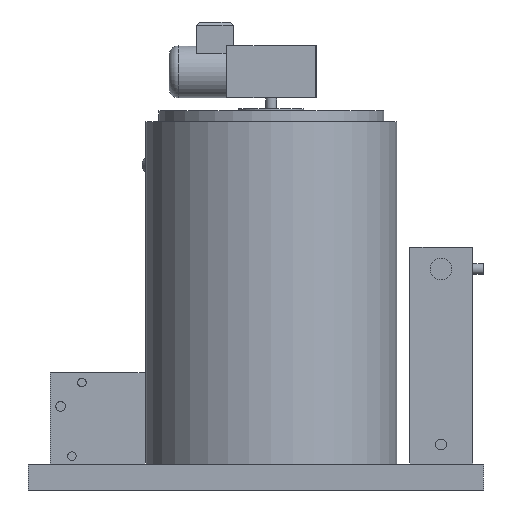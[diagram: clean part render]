
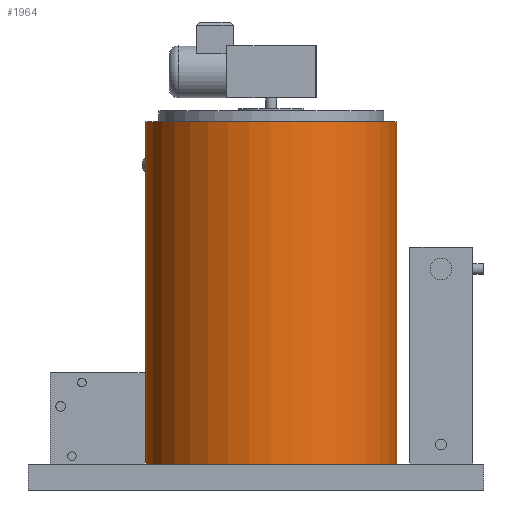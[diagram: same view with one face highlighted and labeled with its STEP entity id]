
A CAD part, front view. The second image highlights one B-rep face of the part: STEP entity #1964.
In plain terms, the highlighted cylindrical face has radius 290 mm (diameter 580 mm), a full revolution.
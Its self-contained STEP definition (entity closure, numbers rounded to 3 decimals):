
#21=B_SPLINE_CURVE_WITH_KNOTS('',3,(#2699,#2700,#2701,#2702,#2703,#2704,
#2705,#2706,#2707,#2708,#2709,#2710,#2711,#2712,#2713,#2714,#2715,#2716,
#2717,#2718,#2719,#2720,#2721,#2722,#2723,#2724,#2725,#2726,#2727,#2728,
#2729,#2730,#2731,#2732,#2733,#2734,#2735,#2736,#2737,#2738,#2739,#2740,
#2741,#2742,#2743),.UNSPECIFIED.,.T.,.F.,(1,1,1,1,1,1,1,1,1,1,1,1,1,1,1,
1,1,1,1,1,1,1,1,1,1,1,1,1,1,1,1,1,1,1,1,1,1,1,1,1,1,1,1,1,1,1,1,1,1),(-0.012,
-0.01,-0.005,0.,0.005,
0.01,0.015,0.02,0.025,
0.03,0.032,0.035,0.04,
0.045,0.05,0.052,0.054,
0.059,0.062,0.064,0.067,
0.069,0.074,0.079,0.084,
0.087,0.089,0.092,0.094,
0.099,0.104,0.109,0.111,
0.114,0.116,0.119,0.124,
0.126,0.129,0.134,0.139,
0.144,0.146,0.149,0.154,
0.158,0.163,0.168,0.173),
 .UNSPECIFIED.);
#28=CYLINDRICAL_SURFACE('',#2082,290.);
#349=ORIENTED_EDGE('',*,*,#657,.F.);
#350=ORIENTED_EDGE('',*,*,#658,.T.);
#351=ORIENTED_EDGE('',*,*,#616,.T.);
#616=EDGE_CURVE('',#781,#781,#898,.T.);
#657=EDGE_CURVE('',#818,#818,#21,.T.);
#658=EDGE_CURVE('',#819,#819,#917,.T.);
#781=VERTEX_POINT('',#2609);
#818=VERTEX_POINT('',#2744);
#819=VERTEX_POINT('',#2746);
#898=CIRCLE('',#2051,290.);
#917=CIRCLE('',#2083,290.);
#986=EDGE_LOOP('',(#349));
#987=EDGE_LOOP('',(#350));
#988=EDGE_LOOP('',(#351));
#1140=FACE_BOUND('',#986,.T.);
#1141=FACE_BOUND('',#987,.T.);
#1142=FACE_BOUND('',#988,.T.);
#1964=ADVANCED_FACE('',(#1140,#1141,#1142),#28,.T.);
#2051=AXIS2_PLACEMENT_3D('',#2608,#2206,#2207);
#2082=AXIS2_PLACEMENT_3D('',#2698,#2290,#2291);
#2083=AXIS2_PLACEMENT_3D('',#2745,#2292,#2293);
#2206=DIRECTION('',(0.,0.,1.));
#2207=DIRECTION('',(1.,0.,0.));
#2290=DIRECTION('',(0.,0.,-1.));
#2291=DIRECTION('',(-1.,0.,0.));
#2292=DIRECTION('',(0.,0.,-1.));
#2293=DIRECTION('',(1.,0.,0.));
#2608=CARTESIAN_POINT('',(35.,-65.,30.));
#2609=CARTESIAN_POINT('',(325.,-65.,30.));
#2698=CARTESIAN_POINT('',(35.,-65.,820.));
#2699=CARTESIAN_POINT('',(-143.522,163.539,725.011));
#2700=CARTESIAN_POINT('',(-143.123,163.85,719.988));
#2701=CARTESIAN_POINT('',(-143.517,163.543,715.037));
#2702=CARTESIAN_POINT('',(-144.694,162.621,710.231));
#2703=CARTESIAN_POINT('',(-146.563,161.136,705.881));
#2704=CARTESIAN_POINT('',(-149.086,159.091,702.036));
#2705=CARTESIAN_POINT('',(-152.087,156.595,698.944));
#2706=CARTESIAN_POINT('',(-154.911,154.175,697.039));
#2707=CARTESIAN_POINT('',(-157.261,152.112,695.974));
#2708=CARTESIAN_POINT('',(-159.698,149.936,695.205));
#2709=CARTESIAN_POINT('',(-162.724,147.164,694.843));
#2710=CARTESIAN_POINT('',(-166.365,143.71,695.352));
#2711=CARTESIAN_POINT('',(-169.183,140.945,696.523));
#2712=CARTESIAN_POINT('',(-171.336,138.782,697.916));
#2713=CARTESIAN_POINT('',(-173.339,136.738,699.566));
#2714=CARTESIAN_POINT('',(-175.151,134.848,701.609));
#2715=CARTESIAN_POINT('',(-176.733,133.166,704.026));
#2716=CARTESIAN_POINT('',(-177.772,132.05,705.972));
#2717=CARTESIAN_POINT('',(-178.673,131.072,708.059));
#2718=CARTESIAN_POINT('',(-179.691,129.958,711.058));
#2719=CARTESIAN_POINT('',(-180.543,129.014,714.976));
#2720=CARTESIAN_POINT('',(-180.899,128.617,719.997));
#2721=CARTESIAN_POINT('',(-180.614,128.935,724.102));
#2722=CARTESIAN_POINT('',(-180.037,129.575,727.347));
#2723=CARTESIAN_POINT('',(-179.444,130.228,729.663));
#2724=CARTESIAN_POINT('',(-178.696,131.047,731.882));
#2725=CARTESIAN_POINT('',(-177.478,132.369,734.716));
#2726=CARTESIAN_POINT('',(-175.634,134.344,737.837));
#2727=CARTESIAN_POINT('',(-172.888,137.209,740.947));
#2728=CARTESIAN_POINT('',(-170.311,139.821,742.837));
#2729=CARTESIAN_POINT('',(-168.06,142.047,743.942));
#2730=CARTESIAN_POINT('',(-166.336,143.724,744.534));
#2731=CARTESIAN_POINT('',(-164.568,145.416,744.901));
#2732=CARTESIAN_POINT('',(-162.135,147.703,745.085));
#2733=CARTESIAN_POINT('',(-159.698,149.936,744.793));
#2734=CARTESIAN_POINT('',(-157.298,152.08,744.041));
#2735=CARTESIAN_POINT('',(-154.909,154.177,742.962));
#2736=CARTESIAN_POINT('',(-152.127,156.561,741.089));
#2737=CARTESIAN_POINT('',(-149.082,159.094,737.957));
#2738=CARTESIAN_POINT('',(-147.014,160.771,734.815));
#2739=CARTESIAN_POINT('',(-145.635,161.873,731.958));
#2740=CARTESIAN_POINT('',(-144.504,162.77,728.988));
#2741=CARTESIAN_POINT('',(-143.522,163.539,725.011));
#2742=CARTESIAN_POINT('',(-143.123,163.85,719.988));
#2743=CARTESIAN_POINT('',(-143.517,163.543,715.037));
#2744=CARTESIAN_POINT('',(-143.255,163.747,720.));
#2745=CARTESIAN_POINT('',(35.,-65.,820.));
#2746=CARTESIAN_POINT('',(325.,-65.,820.));
